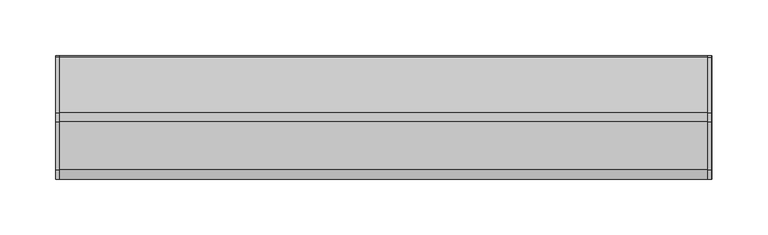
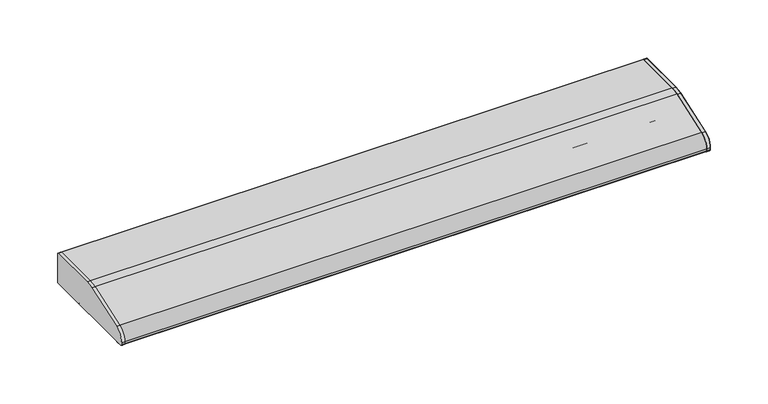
"""IFC4 building model written with IfcOpenShell, lengths in millimetres: light fixture geometry, HermanMiller_SupplementalProducts_G6136_UtilityTaskLight : AO Etho Canvas 30W."""

from ifc_helpers import new_model, si_unit, point, frame, frame_2d, origin, place, context, project, spatial, polyline, circle_curve, trimmed, segment, composite_curve, outline, extrude, source, transform, mapped, element, save


def light_fixture_d8c8fe2c(model_context):
    return source(origin(), model_context, "Body", "SweptSolid", [
        extrude(outline(composite_curve([segment(polyline([(53.975, 1231.9), (-53.975, 1231.9)]), True, "CONTINUOUS"), segment(trimmed(circle_curve(frame_2d((-53.975, 1233.4875)), 1.5875), [point((-53.975, 1231.9))], [point((-55.5625, 1233.4875))], False, "CARTESIAN"), True, "CONTINUOUS"), segment(polyline([(-55.5625, 1233.4875), (-55.5625, 1235.5285714)]), True, "CONTINUOUS"), segment(trimmed(circle_curve(frame_2d((-42.8625, 1235.5285714)), 12.7), [point((-55.5625, 1235.5285714))], [point((-46.9814189, 1247.5420849))], False, "CARTESIAN"), True, "CONTINUOUS"), segment(polyline([(-46.9814189, 1247.5420849), (-4.0045045, 1262.277027)]), True, "CONTINUOUS"), segment(trimmed(circle_curve(frame_2d((4.2333333, 1238.25)), 25.4), [point((-4.0045045, 1262.277027))], [point((4.2333333, 1263.65))], False, "CARTESIAN"), True, "CONTINUOUS"), segment(polyline([(4.2333333, 1263.65), (53.975, 1263.65)]), True, "CONTINUOUS"), segment(trimmed(circle_curve(frame_2d((53.975, 1262.0625)), 1.5875), [point((53.975, 1263.65))], [point((55.5625, 1262.0625))], False, "CARTESIAN"), True, "CONTINUOUS"), segment(polyline([(55.5625, 1262.0625), (55.5625, 1233.4875)]), True, "CONTINUOUS"), segment(trimmed(circle_curve(frame_2d((53.975, 1233.4875)), 1.5875), [point((55.5625, 1233.4875))], [point((53.975, 1231.9))], False, "CARTESIAN"), True, "CONTINUOUS")], self_intersect=False)), frame((291.846, 0.0, 0.0), z_axis=(1.0, 0.0, 0.0), x_axis=(0.0, 1.0, 0.0)), (0.0, 0.0, 1.0), 3.175),
        extrude(outline(composite_curve([segment(trimmed(circle_curve(frame_2d((53.975, 1262.0625)), 1.5875), [point((53.975, 1263.65))], [point((55.5625, 1262.0625))], False, "CARTESIAN"), True, "CONTINUOUS"), segment(polyline([(55.5625, 1262.0625), (55.5625, 1233.4875)]), True, "CONTINUOUS"), segment(trimmed(circle_curve(frame_2d((53.975, 1233.4875)), 1.5875), [point((55.5625, 1233.4875))], [point((53.975, 1231.9))], False, "CARTESIAN"), True, "CONTINUOUS"), segment(polyline([(53.975, 1231.9), (-53.975, 1231.9)]), True, "CONTINUOUS"), segment(trimmed(circle_curve(frame_2d((-53.975, 1233.4875)), 1.5875), [point((-53.975, 1231.9))], [point((-55.5625, 1233.4875))], False, "CARTESIAN"), True, "CONTINUOUS"), segment(polyline([(-55.5625, 1233.4875), (-55.5625, 1235.5285714)]), True, "CONTINUOUS"), segment(trimmed(circle_curve(frame_2d((-42.8625, 1235.5285714)), 12.7), [point((-55.5625, 1235.5285714))], [point((-46.9814189, 1247.5420849))], False, "CARTESIAN"), True, "CONTINUOUS"), segment(polyline([(-46.9814189, 1247.5420849), (-4.0045045, 1262.277027)]), True, "CONTINUOUS"), segment(trimmed(circle_curve(frame_2d((4.2333333, 1238.25)), 25.4), [point((-4.0045045, 1262.277027))], [point((4.2333333, 1263.65))], False, "CARTESIAN"), True, "CONTINUOUS"), segment(polyline([(4.2333333, 1263.65), (53.975, 1263.65)]), True, "CONTINUOUS")], self_intersect=False)), frame((-295.021, 0.0, 0.0), z_axis=(1.0, 0.0, 0.0), x_axis=(0.0, 1.0, 0.0)), (0.0, 0.0, 1.0), 3.175),
        extrude(outline(composite_curve([segment(polyline([(55.5625, 1262.0625), (55.5625, 1233.4875)]), True, "CONTINUOUS"), segment(trimmed(circle_curve(frame_2d((53.975, 1233.4875)), 1.5875), [point((55.5625, 1233.4875))], [point((53.975, 1231.9))], False, "CARTESIAN"), True, "CONTINUOUS"), segment(polyline([(53.975, 1231.9), (19.05, 1231.9)]), True, "CONTINUOUS"), segment(trimmed(circle_curve(frame_2d((19.05, 1233.4875)), 1.5875), [point((19.05, 1231.9))], [point((17.4625, 1233.4875))], False, "CARTESIAN"), True, "CONTINUOUS"), segment(polyline([(17.4625, 1233.4875), (17.4625, 1262.0625), (4.4979167, 1262.0625)]), True, "CONTINUOUS"), segment(trimmed(circle_curve(frame_2d((4.4979167, 1236.6625)), 25.4), [point((4.4979167, 1262.0625))], [point((-3.7399212, 1260.689527))], True, "CARTESIAN"), True, "CONTINUOUS"), segment(polyline([(-3.7399212, 1260.689527), (-37.4564189, 1249.1295849)]), True, "CONTINUOUS"), segment(trimmed(circle_curve(frame_2d((-33.3375, 1237.1160714)), 12.7), [point((-37.4564189, 1249.1295849))], [point((-46.0375, 1237.1160714))], True, "CARTESIAN"), True, "CONTINUOUS"), segment(polyline([(-46.0375, 1237.1160714), (-46.0375, 1233.4875)]), True, "CONTINUOUS"), segment(trimmed(circle_curve(frame_2d((-47.625, 1233.4875)), 1.5875), [point((-46.0375, 1233.4875))], [point((-47.625, 1231.9))], False, "CARTESIAN"), True, "CONTINUOUS"), segment(polyline([(-47.625, 1231.9), (-53.975, 1231.9)]), True, "CONTINUOUS"), segment(trimmed(circle_curve(frame_2d((-53.975, 1233.4875)), 1.5875), [point((-53.975, 1231.9))], [point((-55.5625, 1233.4875))], False, "CARTESIAN"), True, "CONTINUOUS"), segment(polyline([(-55.5625, 1233.4875), (-55.5625, 1235.5285714)]), True, "CONTINUOUS"), segment(trimmed(circle_curve(frame_2d((-42.8625, 1235.5285714)), 12.7), [point((-55.5625, 1235.5285714))], [point((-46.9814189, 1247.5420849))], False, "CARTESIAN"), True, "CONTINUOUS"), segment(polyline([(-46.9814189, 1247.5420849), (-4.0045045, 1262.277027)]), True, "CONTINUOUS"), segment(trimmed(circle_curve(frame_2d((4.2333333, 1238.25)), 25.4), [point((-4.0045045, 1262.277027))], [point((4.2333333, 1263.65))], False, "CARTESIAN"), True, "CONTINUOUS"), segment(polyline([(4.2333333, 1263.65), (53.975, 1263.65)]), True, "CONTINUOUS"), segment(trimmed(circle_curve(frame_2d((53.975, 1262.0625)), 1.5875), [point((53.975, 1263.65))], [point((55.5625, 1262.0625))], False, "CARTESIAN"), True, "CONTINUOUS")], self_intersect=False)), frame((-295.021, 0.0, 0.0), z_axis=(1.0, 0.0, 0.0), x_axis=(0.0, 1.0, 0.0)), (0.0, 0.0, 1.0), 590.5080011),
        extrude(outline(composite_curve([segment(trimmed(circle_curve(frame_2d((1.5875, 1249.3625)), 9.525), [point((-7.9375, 1249.3625))], [point((11.1125, 1249.3625))], False, "CARTESIAN"), True, "CONTINUOUS"), segment(trimmed(circle_curve(frame_2d((1.5875, 1249.3625)), 9.525), [point((11.1125, 1249.3625))], [point((-7.9375, 1249.3625))], False, "CARTESIAN"), True, "CONTINUOUS")], self_intersect=False)), frame((269.621, 0.0, 0.0), z_axis=(1.0, 0.0, 0.0), x_axis=(0.0, 1.0, 0.0)), (0.0, 0.0, 1.0), 12.7),
        extrude(outline(composite_curve([segment(trimmed(circle_curve(frame_2d((1.5875, 1249.3625)), 9.525), [point((-7.9375, 1249.3625))], [point((11.1125, 1249.3625))], False, "CARTESIAN"), True, "CONTINUOUS"), segment(trimmed(circle_curve(frame_2d((1.5875, 1249.3625)), 9.525), [point((11.1125, 1249.3625))], [point((-7.9375, 1249.3625))], False, "CARTESIAN"), True, "CONTINUOUS")], self_intersect=False)), frame((-282.321, 0.0, 0.0), z_axis=(1.0, 0.0, 0.0), x_axis=(0.0, 1.0, 0.0)), (0.0, 0.0, 1.0), 12.7),
        extrude(outline(composite_curve([segment(trimmed(circle_curve(frame_2d((1.5875, 1249.3625)), 9.525), [point((-7.9375, 1249.3625))], [point((11.1125, 1249.3625))], False, "CARTESIAN"), True, "CONTINUOUS"), segment(trimmed(circle_curve(frame_2d((1.5875, 1249.3625)), 9.525), [point((11.1125, 1249.3625))], [point((-7.9375, 1249.3625))], False, "CARTESIAN"), True, "CONTINUOUS")], self_intersect=False)), frame((-269.621, 0.0, 0.0), z_axis=(1.0, 0.0, 0.0), x_axis=(0.0, 1.0, 0.0)), (0.0, 0.0, 1.0), 539.242),
        extrude(outline(composite_curve([segment(polyline([(17.4625, 1235.075), (-46.0375, 1235.075), (-46.0375, 1237.1160714)]), True, "CONTINUOUS"), segment(trimmed(circle_curve(frame_2d((-33.3375, 1237.1160714)), 12.7), [point((-46.0375, 1237.1160714))], [point((-37.4564189, 1249.1295849))], False, "CARTESIAN"), True, "CONTINUOUS"), segment(polyline([(-37.4564189, 1249.1295849), (-3.7399212, 1260.689527)]), True, "CONTINUOUS"), segment(trimmed(circle_curve(frame_2d((4.4979167, 1236.6625)), 25.4), [point((-3.7399212, 1260.689527))], [point((4.4979167, 1262.0625))], False, "CARTESIAN"), True, "CONTINUOUS"), segment(polyline([(4.4979167, 1262.0625), (17.4625, 1262.0625), (17.4625, 1235.075)]), True, "CONTINUOUS")], self_intersect=False)), frame((282.321, 0.0, 0.0), z_axis=(1.0, 0.0, 0.0), x_axis=(0.0, 1.0, 0.0)), (0.0, 0.0, 1.0), 9.525),
        extrude(outline(composite_curve([segment(polyline([(17.4625, 1235.075), (-46.0375, 1235.075), (-46.0375, 1237.1160714)]), True, "CONTINUOUS"), segment(trimmed(circle_curve(frame_2d((-33.3375, 1237.1160714)), 12.7), [point((-46.0375, 1237.1160714))], [point((-37.4564189, 1249.1295849))], False, "CARTESIAN"), True, "CONTINUOUS"), segment(polyline([(-37.4564189, 1249.1295849), (-3.7399212, 1260.689527)]), True, "CONTINUOUS"), segment(trimmed(circle_curve(frame_2d((4.4979167, 1236.6625)), 25.4), [point((-3.7399212, 1260.689527))], [point((4.4979167, 1262.0625))], False, "CARTESIAN"), True, "CONTINUOUS"), segment(polyline([(4.4979167, 1262.0625), (17.4625, 1262.0625), (17.4625, 1235.075)]), True, "CONTINUOUS")], self_intersect=False)), frame((-291.846, 0.0, 0.0), z_axis=(1.0, 0.0, 0.0), x_axis=(0.0, 1.0, 0.0)), (0.0, 0.0, 1.0), 9.525),
    ])


if __name__ == "__main__":
    model = new_model("IFC4")
    model_context = context("Model", 3, world=origin())
    ifc_project = project(units=[si_unit("LENGTHUNIT", "METRE", prefix="MILLI")], contexts=[model_context])
    site = spatial("IfcSite", under=ifc_project)
    building = spatial("IfcBuilding", under=site)
    placement = place(None, origin())
    light_fixture_shape = light_fixture_d8c8fe2c(model_context)
    element("IfcLightFixture", 1, ObjectType="HermanMiller_SupplementalProducts_G6136_UtilityTaskLight : AO Etho Canvas 30W", at=placement, inside=building, context=model_context, shape_type="MappedRepresentation", body=[
        mapped(light_fixture_shape, transform((0.0, 0.0, 0.0), x_axis=(1.0, 0.0, 0.0), y_axis=(0.0, 1.0, 0.0), z_axis=(0.0, 0.0, 1.0))),
    ])
    save(model, "model.ifc")
